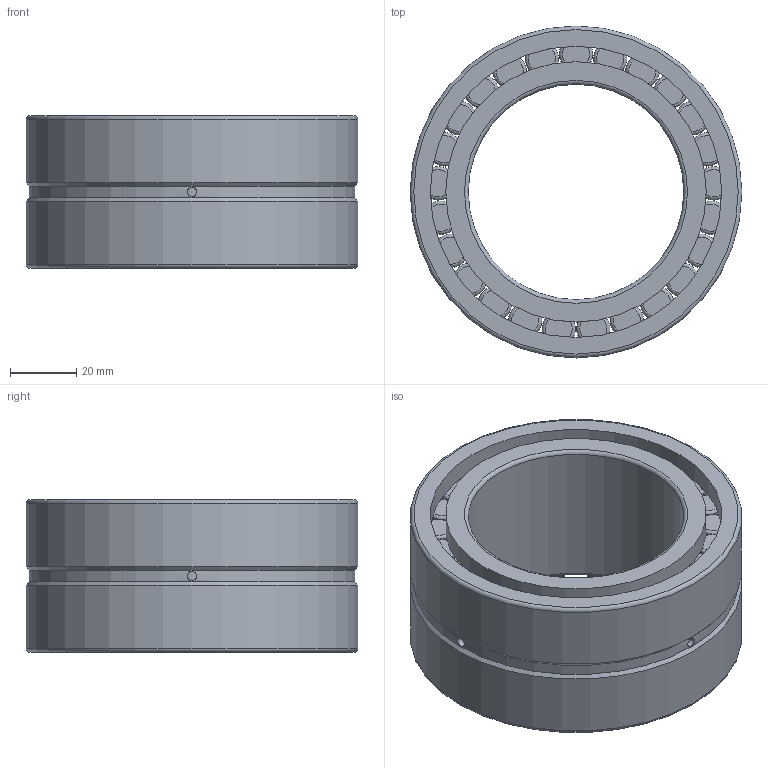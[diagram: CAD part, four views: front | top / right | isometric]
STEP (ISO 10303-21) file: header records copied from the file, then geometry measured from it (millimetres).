
FILE_DESCRIPTION(/* description */ (''),/* implementation_level */ '2;1');
FILE_NAME(/* name */ 'C:\Users\OUREHANEKD\Desktop\Ložiská\MODELY\JRVL\NNCF\NNCF50\NNCF50--\NNCF5013V.stp',/* time_stamp */ '2016-09-08T13:34:10+02:00',/* author */ ('OUREHANEKD'),/* organization */ (''),/* preprocessor_version */ 'ST-DEVELOPER v15.6',/* originating_system */ 'Autodesk Inventor 2015',/* authorisation */ '');
FILE_SCHEMA (('AUTOMOTIVE_DESIGN { 1 0 10303 214 3 1 1 }'));
Length unit declared in the file: millimetre
Products named in the file (5): NNCF5013V-01; NNCF5013V-02; NNCF5013V-kr; NNCF5013V-roller; NNCF5013V
Assembly tree (28 placements, depth 2):
  NNCF5013V
    NNCF5013V-01
    NNCF5013V-02
    NNCF5013V-kr
    NNCF5013V-roller  x25
Bounding box: 100 x 100 x 46 mm (x, y, z)
Volume: 161327.3 mm3; surface area: 90816.7 mm2
Topology: 53 solids, 53 shells, 287 faces, 414 edges, 240 vertices
Faces by surface type: plane 113, torus 104, cylinder 68, cone 2
Full cylindrical faces by diameter (mm): 2.76 x3, 10.05 x50, 65 x1, 73.1 x2, 78.5 x3, 87.8 x1, 89.9 x1, 93.2 x2, 94.7 x1, 96.2 x1, 98.16 x1, 100 x2
Entity records: 1456 total; most frequent: CARTESIAN_POINT 374, DIRECTION 244, AXIS2_PLACEMENT_3D 122, EDGE_LOOP 96, ORIENTED_EDGE 96, FACE_BOUND 49, VERTEX_POINT 48, EDGE_CURVE 48
